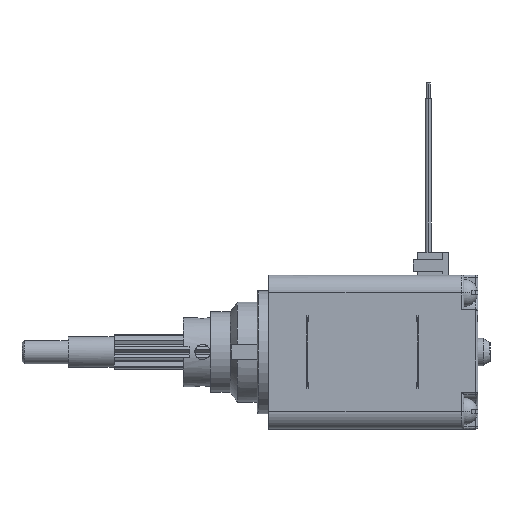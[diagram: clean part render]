
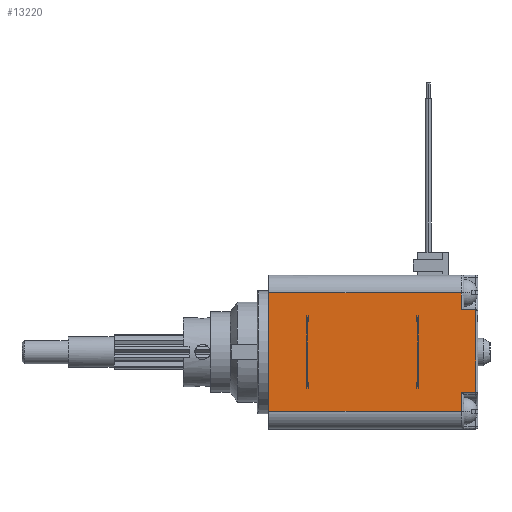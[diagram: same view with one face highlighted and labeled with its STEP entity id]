
A CAD part, front view. The second image highlights one B-rep face of the part: STEP entity #13220.
In plain terms, the highlighted planar face has unit normal (0, -1, 0).
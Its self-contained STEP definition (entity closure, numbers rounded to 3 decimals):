
#925=CARTESIAN_POINT('',(6.525,-10.,3.945));
#926=VERTEX_POINT('',#925);
#927=CARTESIAN_POINT('',(6.7,-10.,3.945));
#928=VERTEX_POINT('',#927);
#929=CARTESIAN_POINT('',(6.525,-10.,3.945));
#930=DIRECTION('',(1.,0.,0.));
#931=VECTOR('',#930,0.175);
#932=LINE('',#929,#931);
#933=EDGE_CURVE('',#926,#928,#932,.T.);
#958=CARTESIAN_POINT('',(6.525,-10.,-3.945));
#959=VERTEX_POINT('',#958);
#968=CARTESIAN_POINT('',(6.7,-10.,-3.945));
#969=VERTEX_POINT('',#968);
#977=CARTESIAN_POINT('',(6.7,-10.,-3.945));
#978=DIRECTION('',(-1.,0.,0.));
#979=VECTOR('',#978,0.175);
#980=LINE('',#977,#979);
#981=EDGE_CURVE('',#969,#959,#980,.T.);
#1067=CARTESIAN_POINT('',(6.7,-10.,4.583));
#1068=VERTEX_POINT('',#1067);
#1069=CARTESIAN_POINT('',(6.7,-10.,3.945));
#1070=DIRECTION('',(0.,0.,1.));
#1071=VECTOR('',#1070,0.638);
#1072=LINE('',#1069,#1071);
#1073=EDGE_CURVE('',#928,#1068,#1072,.T.);
#1143=CARTESIAN_POINT('',(6.7,-10.,-4.583));
#1144=VERTEX_POINT('',#1143);
#1152=CARTESIAN_POINT('',(6.7,-10.,-4.583));
#1153=DIRECTION('',(0.,0.,1.));
#1154=VECTOR('',#1153,0.638);
#1155=LINE('',#1152,#1154);
#1156=EDGE_CURVE('',#1144,#969,#1155,.T.);
#1326=CARTESIAN_POINT('',(1.5,-10.,-7.7));
#1327=VERTEX_POINT('',#1326);
#1335=CARTESIAN_POINT('',(1.5,-10.,7.7));
#1336=VERTEX_POINT('',#1335);
#1337=CARTESIAN_POINT('',(1.5,-10.,-7.7));
#1338=DIRECTION('',(0.,0.,1.));
#1339=VECTOR('',#1338,15.4);
#1340=LINE('',#1337,#1339);
#1341=EDGE_CURVE('',#1327,#1336,#1340,.T.);
#1438=CARTESIAN_POINT('',(26.57,-10.,7.7));
#1439=VERTEX_POINT('',#1438);
#1440=CARTESIAN_POINT('',(1.5,-10.,7.7));
#1441=DIRECTION('',(1.,0.,0.));
#1442=VECTOR('',#1441,25.07);
#1443=LINE('',#1440,#1442);
#1444=EDGE_CURVE('',#1336,#1439,#1443,.T.);
#1468=CARTESIAN_POINT('',(20.875,-10.,3.945));
#1469=VERTEX_POINT('',#1468);
#1478=CARTESIAN_POINT('',(20.7,-10.,3.945));
#1479=VERTEX_POINT('',#1478);
#1487=CARTESIAN_POINT('',(20.7,-10.,3.945));
#1488=DIRECTION('',(1.,0.,0.));
#1489=VECTOR('',#1488,0.175);
#1490=LINE('',#1487,#1489);
#1491=EDGE_CURVE('',#1479,#1469,#1490,.T.);
#1600=CARTESIAN_POINT('',(20.875,-10.,-3.945));
#1601=VERTEX_POINT('',#1600);
#1602=CARTESIAN_POINT('',(20.7,-10.,-3.945));
#1603=VERTEX_POINT('',#1602);
#1604=CARTESIAN_POINT('',(20.875,-10.,-3.945));
#1605=DIRECTION('',(-1.,0.,0.));
#1606=VECTOR('',#1605,0.175);
#1607=LINE('',#1604,#1606);
#1608=EDGE_CURVE('',#1601,#1603,#1607,.T.);
#2259=CARTESIAN_POINT('',(26.57,-10.,-7.7));
#2260=VERTEX_POINT('',#2259);
#2268=CARTESIAN_POINT('',(26.57,-10.,-7.7));
#2269=DIRECTION('',(-1.,0.,0.));
#2270=VECTOR('',#2269,25.07);
#2271=LINE('',#2268,#2270);
#2272=EDGE_CURVE('',#2260,#1327,#2271,.T.);
#2623=CARTESIAN_POINT('',(6.525,-10.,-3.945));
#2624=DIRECTION('',(0.,0.,1.));
#2625=VECTOR('',#2624,7.89);
#2626=LINE('',#2623,#2625);
#2627=EDGE_CURVE('',#959,#926,#2626,.T.);
#5074=CARTESIAN_POINT('',(20.875,-10.,3.945));
#5075=DIRECTION('',(0.,0.,-1.));
#5076=VECTOR('',#5075,7.89);
#5077=LINE('',#5074,#5076);
#5078=EDGE_CURVE('',#1469,#1601,#5077,.T.);
#12381=CARTESIAN_POINT('',(20.7,-10.,4.583));
#12382=VERTEX_POINT('',#12381);
#12390=CARTESIAN_POINT('',(20.7,-10.,4.583));
#12391=DIRECTION('',(0.,0.,-1.));
#12392=VECTOR('',#12391,0.638);
#12393=LINE('',#12390,#12392);
#12394=EDGE_CURVE('',#12382,#1479,#12393,.T.);
#12521=CARTESIAN_POINT('',(20.7,-10.,-4.583));
#12522=VERTEX_POINT('',#12521);
#12523=CARTESIAN_POINT('',(20.7,-10.,-3.945));
#12524=DIRECTION('',(0.,0.,-1.));
#12525=VECTOR('',#12524,0.638);
#12526=LINE('',#12523,#12525);
#12527=EDGE_CURVE('',#1603,#12522,#12526,.T.);
#12841=CARTESIAN_POINT('',(20.96,-10.,4.583));
#12842=VERTEX_POINT('',#12841);
#12933=CARTESIAN_POINT('',(20.96,-10.,-4.583));
#12934=VERTEX_POINT('',#12933);
#12942=CARTESIAN_POINT('',(20.96,-10.,-4.583));
#12943=DIRECTION('',(0.,0.,1.));
#12944=VECTOR('',#12943,9.165);
#12945=LINE('',#12942,#12944);
#12946=EDGE_CURVE('',#12934,#12842,#12945,.T.);
#13122=CARTESIAN_POINT('',(14.6,-10.,0.));
#13123=DIRECTION('',(0.,0.,-1.));
#13124=DIRECTION('',(0.,-1.,0.));
#13125=AXIS2_PLACEMENT_3D('',#13122,#13124,#13123);
#13126=PLANE('',#13125);
#13127=ORIENTED_EDGE('',*,*,#1341,.F.);
#13128=ORIENTED_EDGE('',*,*,#2272,.F.);
#13129=CARTESIAN_POINT('',(26.57,-10.,-5.2));
#13130=VERTEX_POINT('',#13129);
#13131=CARTESIAN_POINT('',(26.57,-10.,-7.7));
#13132=DIRECTION('',(0.,0.,1.));
#13133=VECTOR('',#13132,2.5);
#13134=LINE('',#13131,#13133);
#13135=EDGE_CURVE('',#2260,#13130,#13134,.T.);
#13136=ORIENTED_EDGE('E1186',*,*,#13135,.T.);
#13137=CARTESIAN_POINT('',(28.4,-10.,-5.2));
#13138=VERTEX_POINT('',#13137);
#13139=CARTESIAN_POINT('',(26.57,-10.,-5.2));
#13140=DIRECTION('',(1.,0.,0.));
#13141=VECTOR('',#13140,1.83);
#13142=LINE('',#13139,#13141);
#13143=EDGE_CURVE('',#13130,#13138,#13142,.T.);
#13144=ORIENTED_EDGE('E1187',*,*,#13143,.T.);
#13145=CARTESIAN_POINT('',(28.4,-10.,5.5));
#13146=VERTEX_POINT('',#13145);
#13147=CARTESIAN_POINT('',(28.4,-10.,-5.2));
#13148=DIRECTION('',(0.,0.,1.));
#13149=VECTOR('',#13148,10.7);
#13150=LINE('',#13147,#13149);
#13151=EDGE_CURVE('',#13138,#13146,#13150,.T.);
#13152=ORIENTED_EDGE('E1188',*,*,#13151,.T.);
#13153=CARTESIAN_POINT('',(26.57,-10.,5.5));
#13154=VERTEX_POINT('',#13153);
#13155=CARTESIAN_POINT('',(28.4,-10.,5.5));
#13156=DIRECTION('',(-1.,0.,0.));
#13157=VECTOR('',#13156,1.83);
#13158=LINE('',#13155,#13157);
#13159=EDGE_CURVE('',#13146,#13154,#13158,.T.);
#13160=ORIENTED_EDGE('E1189',*,*,#13159,.T.);
#13161=CARTESIAN_POINT('',(26.57,-10.,5.5));
#13162=CARTESIAN_POINT('',(26.57,-10.,5.704));
#13163=CARTESIAN_POINT('',(26.57,-10.,6.804));
#13164=CARTESIAN_POINT('',(26.57,-10.,7.7));
#13165=B_SPLINE_CURVE_WITH_KNOTS('',2,(#13161,#13162,#13163,#13164),.UNSPECIFIED.,.F.,.U.,(3,1,3),(0.,0.026,0.139),.UNSPECIFIED.);
#13166=EDGE_CURVE('',#13154,#1439,#13165,.T.);
#13167=ORIENTED_EDGE('E1190',*,*,#13166,.T.);
#13168=ORIENTED_EDGE('E1190',*,*,#1444,.F.);
#13169=EDGE_LOOP('',(#13127,#13128,#13136,#13144,#13152,#13160,#13167,#13168));
#13170=FACE_OUTER_BOUND('',#13169,.T.);
#13171=ORIENTED_EDGE('',*,*,#1073,.F.);
#13172=ORIENTED_EDGE('',*,*,#933,.F.);
#13173=ORIENTED_EDGE('',*,*,#2627,.F.);
#13174=ORIENTED_EDGE('',*,*,#981,.F.);
#13175=ORIENTED_EDGE('',*,*,#1156,.F.);
#13176=CARTESIAN_POINT('',(6.44,-10.,-4.583));
#13177=VERTEX_POINT('',#13176);
#13178=CARTESIAN_POINT('',(6.7,-10.,-4.583));
#13179=DIRECTION('',(-1.,0.,0.));
#13180=VECTOR('',#13179,0.26);
#13181=LINE('',#13178,#13180);
#13182=EDGE_CURVE('',#1144,#13177,#13181,.T.);
#13183=ORIENTED_EDGE('E1191',*,*,#13182,.T.);
#13184=CARTESIAN_POINT('',(6.44,-10.,4.583));
#13185=VERTEX_POINT('',#13184);
#13186=CARTESIAN_POINT('',(6.44,-10.,-4.583));
#13187=DIRECTION('',(0.,0.,1.));
#13188=VECTOR('',#13187,9.165);
#13189=LINE('',#13186,#13188);
#13190=EDGE_CURVE('',#13177,#13185,#13189,.T.);
#13191=ORIENTED_EDGE('E1192',*,*,#13190,.T.);
#13192=CARTESIAN_POINT('',(6.44,-10.,4.583));
#13193=DIRECTION('',(1.,0.,0.));
#13194=VECTOR('',#13193,0.26);
#13195=LINE('',#13192,#13194);
#13196=EDGE_CURVE('',#13185,#1068,#13195,.T.);
#13197=ORIENTED_EDGE('E1193',*,*,#13196,.T.);
#13198=EDGE_LOOP('',(#13171,#13172,#13173,#13174,#13175,#13183,#13191,#13197));
#13199=FACE_BOUND('',#13198,.T.);
#13200=CARTESIAN_POINT('',(20.7,-10.,4.583));
#13201=DIRECTION('',(1.,0.,0.));
#13202=VECTOR('',#13201,0.26);
#13203=LINE('',#13200,#13202);
#13204=EDGE_CURVE('',#12382,#12842,#13203,.T.);
#13205=ORIENTED_EDGE('E1194',*,*,#13204,.T.);
#13206=ORIENTED_EDGE('E1194',*,*,#12946,.F.);
#13207=CARTESIAN_POINT('',(20.96,-10.,-4.583));
#13208=DIRECTION('',(-1.,0.,0.));
#13209=VECTOR('',#13208,0.26);
#13210=LINE('',#13207,#13209);
#13211=EDGE_CURVE('',#12934,#12522,#13210,.T.);
#13212=ORIENTED_EDGE('E1195',*,*,#13211,.T.);
#13213=ORIENTED_EDGE('E1195',*,*,#12527,.F.);
#13214=ORIENTED_EDGE('E1195',*,*,#1608,.F.);
#13215=ORIENTED_EDGE('E1195',*,*,#5078,.F.);
#13216=ORIENTED_EDGE('E1195',*,*,#1491,.F.);
#13217=ORIENTED_EDGE('E1195',*,*,#12394,.F.);
#13218=EDGE_LOOP('',(#13205,#13206,#13212,#13213,#13214,#13215,#13216,#13217));
#13219=FACE_BOUND('',#13218,.T.);
#13220=ADVANCED_FACE('F373',(#13170,#13199,#13219),#13126,.T.);
